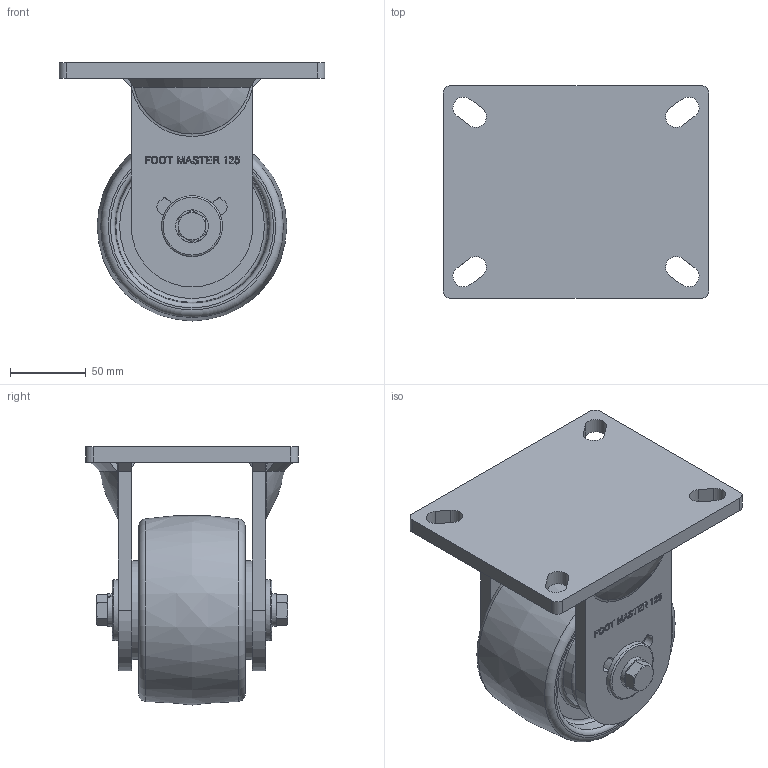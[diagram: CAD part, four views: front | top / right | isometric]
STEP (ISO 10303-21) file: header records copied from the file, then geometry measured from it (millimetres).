
FILE_DESCRIPTION(/* description */ ('','CAx-IF Rec.Pracs.---Representation and Presentation of Product Manufacturing Information (PMI)---4.0---2014-10-13'),/* implementation_level */ '2;1');
FILE_NAME(/* name */ 'Y:\1.기술연구소\2.연구개발 진행중\133.고하중캐스터 브레이크 타입 변경건_2025.11.03\1.도면\4.홈페이지용 도면\01. 3D\GXT-125 SERIES\GXT-125-STEP\GXT-125-ARF-NYD.stp',/* time_stamp */ '2026-07-21T15:47:58+09:00',/* author */ ('장용하'),/* organization */ (''),/* preprocessor_version */ 'ST-DEVELOPER v18.1',/* originating_system */ 'Autodesk Inventor 2021',/* authorisation */ '');
FILE_SCHEMA (('AP242_MANAGED_MODEL_BASED_3D_ENGINEERING_MIM_LF { 1 0 10303 442 1 1 4 }'));
Length unit declared in the file: millimetre
Products named in the file (1): GXT-125-ARF-NYD
Bounding box: 175 x 140 x 170 mm (x, y, z)
Volume: 1212198.2 mm3; surface area: 154787.1 mm2
Topology: 1 solids, 1 shells, 910 faces, 2482 edges, 1636 vertices
Faces by surface type: plane 476, bspline 328, cylinder 52, cone 20, torus 18, sphere 16
Full cylindrical faces by diameter (mm): 12 x2, 21.5 x2, 40 x2, 65 x2
Entity records: 29235 total; most frequent: CARTESIAN_POINT 8197, ORIENTED_EDGE 4964, DIRECTION 3232, EDGE_CURVE 2482, VERTEX_POINT 1636, LINE 1514, VECTOR 1514, EDGE_LOOP 998
